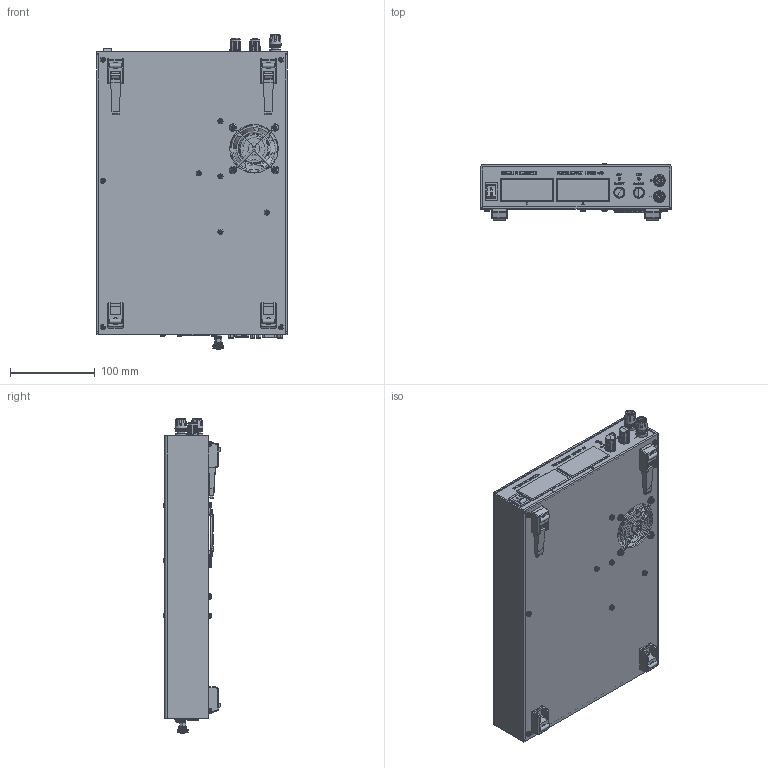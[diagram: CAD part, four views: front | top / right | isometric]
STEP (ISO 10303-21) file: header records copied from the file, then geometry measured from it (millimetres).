
FILE_DESCRIPTION(/* description */ (''),/* implementation_level */ '2;1');
FILE_NAME(/* name */ 'A:\Data\ES300\presentation\ES300-P180.stp',/* time_stamp */ '2021-01-04T13:12:03+01:00',/* author */ ('Delta'),/* organization */ (''),/* preprocessor_version */ 'ST-DEVELOPER v17.2',/* originating_system */ 'Autodesk Inventor 2019',/* authorisation */ '');
FILE_SCHEMA (('AUTOMOTIVE_DESIGN { 1 0 10303 214 3 1 1 }'));
Products named in the file (1): _Assembly ES300-P180_Shrinkwrap_2
Bounding box: 224 x 67.7 x 370.5 mm (x, y, z)
Surface area: 255637.1 mm2 (no closed solid volume)
Topology: 0 solids, 1 shells, 3526 faces, 8983 edges, 5728 vertices
Faces by surface type: plane 1962, cylinder 597, bspline 477, cone 291, torus 132, sphere 67
Full cylindrical faces by diameter (mm): 0.9 x9, 1.1 x9, 1.5 x8, 2.156 x4, 2.7 x4, 2.76 x4, 2.9 x3, 3 x5, 3.1 x6, 3.2 x5, 3.4 x4, 3.5 x126, 4 x5, 4.1 x4, 4.3 x1, 4.5 x2, 4.75 x4, 5 x1, 6 x38, 6.7 x2, 6.8 x4, 7.1 x2, 7.8 x2, 8 x4, 8.8 x3, 9.7 x2, 10.5 x1, 10.7 x2, 12.8 x2, 13.4 x2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
Entity records: 120542 total; most frequent: CARTESIAN_POINT 35106, ORIENTED_EDGE 17868, DIRECTION 15776, EDGE_CURVE 8934, VERTEX_POINT 5728, AXIS2_PLACEMENT_3D 5532, LINE 4712, VECTOR 4712
